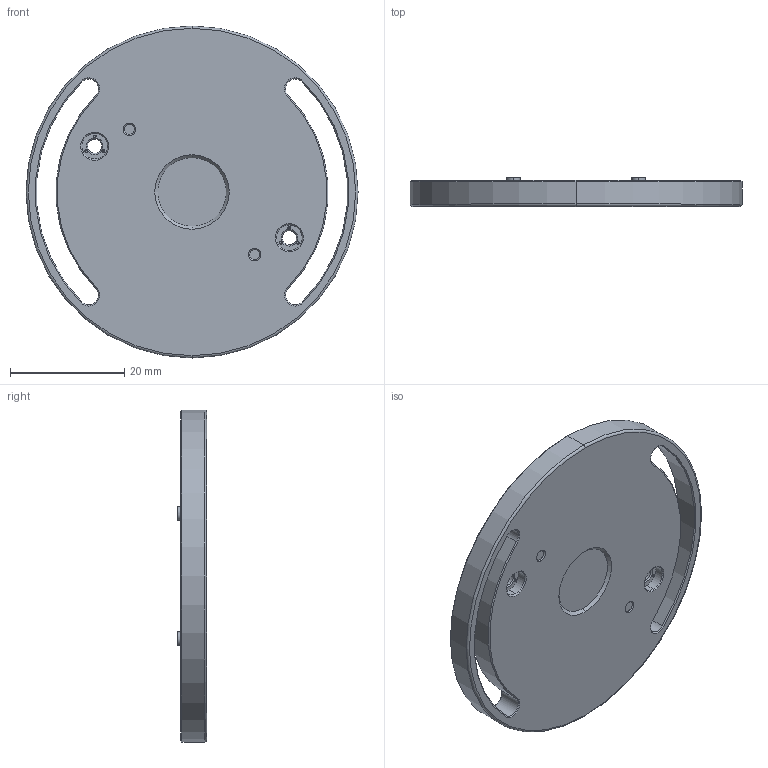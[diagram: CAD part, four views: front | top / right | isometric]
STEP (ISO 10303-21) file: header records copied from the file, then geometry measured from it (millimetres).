
FILE_DESCRIPTION (( 'STEP AP214' ), '1' );
FILE_NAME ('MN01361D02_05.STEP', '2023-08-02T11:45:49', ( '' ), ( '' ), 'SwSTEP 2.0', 'SolidWorks 2022', '' );
FILE_SCHEMA (( 'AUTOMOTIVE_DESIGN' ));
Length unit declared in the file: millimetre
Products named in the file (1): MN01361D02_05
Bounding box: 58 x 5.1 x 58 mm (x, y, z)
Volume: 7024.1 mm3; surface area: 6690.8 mm2
Topology: 1 solids, 1 shells, 200 faces, 464 edges, 268 vertices
Faces by surface type: cone 75, cylinder 59, plane 45, torus 15, sphere 6
Entity records: 5636 total; most frequent: DIRECTION 1084, CARTESIAN_POINT 978, ORIENTED_EDGE 894, EDGE_CURVE 447, AXIS2_PLACEMENT_3D 446, VERTEX_POINT 264, CIRCLE 245, EDGE_LOOP 223
